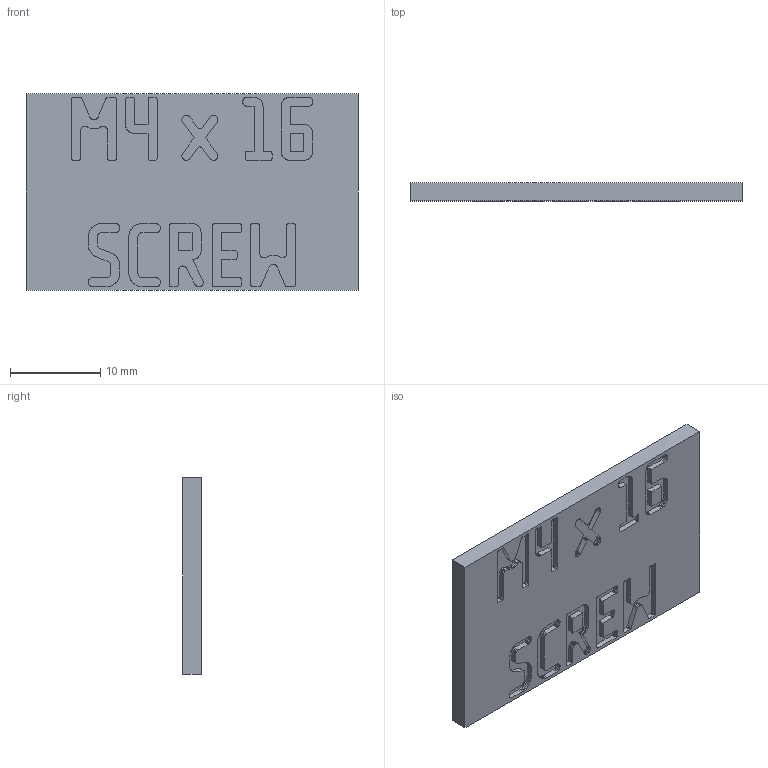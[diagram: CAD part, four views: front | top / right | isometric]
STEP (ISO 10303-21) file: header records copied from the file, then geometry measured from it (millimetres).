
FILE_DESCRIPTION(('Open CASCADE Model'),'2;1');
FILE_NAME('Open CASCADE Shape Model','2026-11-03T17:09:30',('Author'),( 'Open CASCADE'),'Open CASCADE STEP processor 8.0','build123d', 'Unknown');
FILE_SCHEMA(('AUTOMOTIVE_DESIGN { 1 0 10303 214 1 1 1 1 }'));
Length unit declared in the file: millimetre
Products named in the file (2): =>[0:1:1:2]; COMPOUND
Assembly tree (1 placements, depth 2):
  =>[0:1:1:2]
    COMPOUND
Bounding box: 36.8 x 2 x 21.8 mm (x, y, z)
Volume: 1519.8 mm3; surface area: 2004.4 mm2
Topology: 1 solids, 1 shells, 1083 faces, 3207 edges, 2138 vertices
Faces by surface type: plane 1083
Entity records: 77140 total; most frequent: CARTESIAN_POINT 12844, DIRECTION 11791, LINE 9621, VECTOR 9621, ORIENTED_EDGE 6414, PCURVE 6414, DEFINITIONAL_REPRESENTATION 6414, EDGE_CURVE 3207
